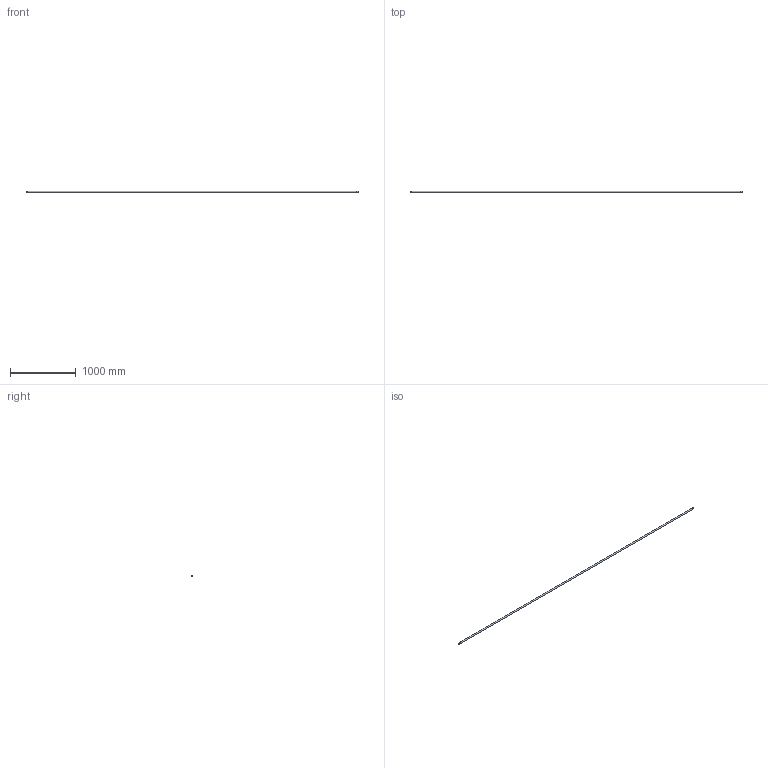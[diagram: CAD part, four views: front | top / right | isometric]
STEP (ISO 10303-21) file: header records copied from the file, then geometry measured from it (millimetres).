
FILE_DESCRIPTION(('FreeCAD Model'),'2;1');
FILE_NAME('Open CASCADE Shape Model','2026-10-12T23:06:14',('Author'),( ''),'Open CASCADE STEP processor 7.8','FreeCAD','Unknown');
FILE_SCHEMA(('AUTOMOTIVE_DESIGN { 1 0 10303 214 1 1 1 1 }'));
Length unit declared in the file: millimetre
Products named in the file (4): noodles; Rope_angel_hair_5m; EndCap_Start; EndCap_End
Assembly tree (3 placements, depth 2):
  noodles
    Rope_angel_hair_5m
    EndCap_Start
    EndCap_End
Bounding box: 5056 x 20.78 x 20.75 mm (x, y, z)
Volume: 1589824.8 mm3; surface area: 319806.1 mm2
Topology: 3 solids, 3 shells, 9 faces, 9 edges, 6 vertices
Faces by surface type: plane 6, cylinder 3
Full cylindrical faces by diameter (mm): 20 x1, 20.8 x2
Entity records: 229 total; most frequent: DIRECTION 41, CARTESIAN_POINT 28, AXIS2_PLACEMENT_3D 19, ORIENTED_EDGE 18, ADVANCED_FACE 9, FACE_BOUND 9, EDGE_LOOP 9, EDGE_CURVE 9
